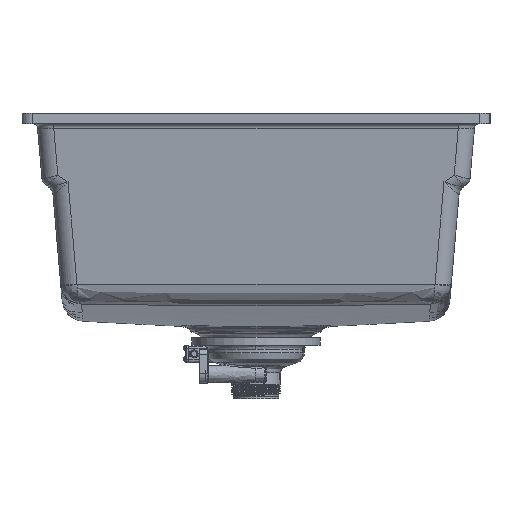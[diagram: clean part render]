
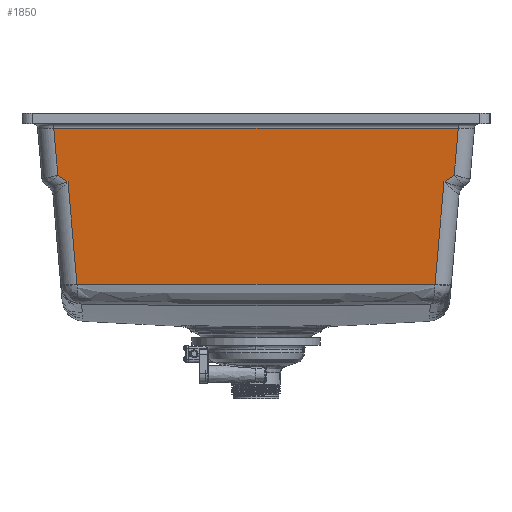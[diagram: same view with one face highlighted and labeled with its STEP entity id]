
A CAD part, left-side view. The second image highlights one B-rep face of the part: STEP entity #1850.
In plain terms, the highlighted planar face has unit normal (-0.996, 0, -0.087).
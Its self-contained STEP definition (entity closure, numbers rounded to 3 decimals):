
#1850=ADVANCED_FACE('',(#4476),#45034,.T.);
#4476=FACE_OUTER_BOUND('',#7194,.T.);
#7194=EDGE_LOOP('',(#16916,#16917,#16918,#16919,#16920,#16921,#16922,#16923,
#16924,#16925));
#16916=ORIENTED_EDGE('',*,*,#26790,.F.);
#16917=ORIENTED_EDGE('',*,*,#26753,.F.);
#16918=ORIENTED_EDGE('',*,*,#26775,.F.);
#16919=ORIENTED_EDGE('',*,*,#26800,.F.);
#16920=ORIENTED_EDGE('',*,*,#26801,.F.);
#16921=ORIENTED_EDGE('',*,*,#26802,.F.);
#16922=ORIENTED_EDGE('',*,*,#26776,.F.);
#16923=ORIENTED_EDGE('',*,*,#26758,.F.);
#16924=ORIENTED_EDGE('',*,*,#26792,.F.);
#16925=ORIENTED_EDGE('',*,*,#26631,.T.);
#26631=EDGE_CURVE('',#41331,#41330,#36115,.T.);
#26753=EDGE_CURVE('',#41376,#41347,#36169,.T.);
#26758=EDGE_CURVE('',#41337,#41366,#36172,.T.);
#26775=EDGE_CURVE('',#41380,#41376,#36178,.T.);
#26776=EDGE_CURVE('',#41366,#41395,#36179,.T.);
#26790=EDGE_CURVE('',#41347,#41330,#36188,.T.);
#26792=EDGE_CURVE('',#41331,#41337,#36189,.T.);
#26800=EDGE_CURVE('',#41379,#41380,#36193,.T.);
#26801=EDGE_CURVE('',#41385,#41379,#36194,.T.);
#26802=EDGE_CURVE('',#41395,#41385,#36195,.T.);
#36115=B_SPLINE_CURVE_WITH_KNOTS('',1,(#81781,#81782),.UNSPECIFIED.,.F.,
 .F.,(2,2),(-397.619,0.),.UNSPECIFIED.);
#36169=B_SPLINE_CURVE_WITH_KNOTS('',1,(#84363,#84364),.UNSPECIFIED.,.F.,
 .F.,(2,2),(0.,11.937),.UNSPECIFIED.);
#36172=B_SPLINE_CURVE_WITH_KNOTS('',1,(#84375,#84376),.UNSPECIFIED.,.F.,
 .F.,(2,2),(0.,11.937),.UNSPECIFIED.);
#36178=B_SPLINE_CURVE_WITH_KNOTS('',1,(#84420,#84421),.UNSPECIFIED.,.F.,
 .F.,(2,2),(0.,101.55),.UNSPECIFIED.);
#36179=B_SPLINE_CURVE_WITH_KNOTS('',1,(#84422,#84423),.UNSPECIFIED.,.F.,
 .F.,(2,2),(0.,101.55),.UNSPECIFIED.);
#36188=B_SPLINE_CURVE_WITH_KNOTS('',1,(#84521,#84522),.UNSPECIFIED.,.F.,
 .F.,(2,2),(0.,46.451),.UNSPECIFIED.);
#36189=B_SPLINE_CURVE_WITH_KNOTS('',1,(#84528,#84529),.UNSPECIFIED.,.F.,
 .F.,(2,2),(0.,46.451),.UNSPECIFIED.);
#36193=B_SPLINE_CURVE_WITH_KNOTS('',3,(#84552,#84553,#84554,#84555),
 .UNSPECIFIED.,.F.,.F.,(4,4),(-0.155,0.),.UNSPECIFIED.);
#36194=B_SPLINE_CURVE_WITH_KNOTS('',3,(#84556,#84557,#84558,#84559,#84560,
#84561),.UNSPECIFIED.,.F.,.F.,(4,2,4),(-351.914,-175.957,
0.),.UNSPECIFIED.);
#36195=B_SPLINE_CURVE_WITH_KNOTS('',3,(#84562,#84563,#84564,#84565),
 .UNSPECIFIED.,.F.,.F.,(4,4),(-0.155,0.),.UNSPECIFIED.);
#41330=VERTEX_POINT('',#81364);
#41331=VERTEX_POINT('',#81365);
#41337=VERTEX_POINT('',#81371);
#41347=VERTEX_POINT('',#81381);
#41366=VERTEX_POINT('',#81400);
#41376=VERTEX_POINT('',#81410);
#41379=VERTEX_POINT('',#81413);
#41380=VERTEX_POINT('',#81414);
#41385=VERTEX_POINT('',#81419);
#41395=VERTEX_POINT('',#81429);
#45034=PLANE('',#48580);
#48580=AXIS2_PLACEMENT_3D('',#79777,#53653,$);
#53653=DIRECTION('',(-0.996,0.,-0.087));
#79777=CARTESIAN_POINT('',(-349.798,-238.692,-45.374));
#81364=CARTESIAN_POINT('',(-364.749,198.81,125.518));
#81365=CARTESIAN_POINT('',(-364.749,-198.81,125.518));
#81371=CARTESIAN_POINT('',(-360.715,-194.776,79.418));
#81381=CARTESIAN_POINT('',(-360.715,194.776,79.418));
#81400=CARTESIAN_POINT('',(-360.147,-184.776,72.924));
#81410=CARTESIAN_POINT('',(-360.147,184.776,72.924));
#81413=CARTESIAN_POINT('',(-351.317,175.943,-28.011));
#81414=CARTESIAN_POINT('',(-351.33,175.959,-27.857));
#81419=CARTESIAN_POINT('',(-351.317,-175.943,-28.011));
#81429=CARTESIAN_POINT('',(-351.33,-175.959,-27.857));
#81781=CARTESIAN_POINT('',(-364.749,-198.81,125.518));
#81782=CARTESIAN_POINT('',(-364.749,198.81,125.518));
#84363=CARTESIAN_POINT('',(-360.147,184.776,72.924));
#84364=CARTESIAN_POINT('',(-360.715,194.776,79.418));
#84375=CARTESIAN_POINT('',(-360.715,-194.776,79.418));
#84376=CARTESIAN_POINT('',(-360.147,-184.776,72.924));
#84420=CARTESIAN_POINT('',(-351.33,175.959,-27.857));
#84421=CARTESIAN_POINT('',(-360.147,184.776,72.924));
#84422=CARTESIAN_POINT('',(-360.147,-184.776,72.924));
#84423=CARTESIAN_POINT('',(-351.33,-175.959,-27.857));
#84521=CARTESIAN_POINT('',(-360.715,194.776,79.418));
#84522=CARTESIAN_POINT('',(-364.749,198.81,125.518));
#84528=CARTESIAN_POINT('',(-364.749,-198.81,125.518));
#84529=CARTESIAN_POINT('',(-360.715,-194.776,79.418));
#84552=CARTESIAN_POINT('',(-351.317,175.943,-28.011));
#84553=CARTESIAN_POINT('',(-351.321,175.949,-27.96));
#84554=CARTESIAN_POINT('',(-351.326,175.955,-27.909));
#84555=CARTESIAN_POINT('',(-351.33,175.959,-27.857));
#84556=CARTESIAN_POINT('',(-351.317,-175.943,-28.011));
#84557=CARTESIAN_POINT('',(-351.22,-117.301,-29.113));
#84558=CARTESIAN_POINT('',(-351.167,-58.653,-29.721));
#84559=CARTESIAN_POINT('',(-351.167,58.653,-29.721));
#84560=CARTESIAN_POINT('',(-351.22,117.301,-29.113));
#84561=CARTESIAN_POINT('',(-351.317,175.943,-28.011));
#84562=CARTESIAN_POINT('',(-351.33,-175.959,-27.857));
#84563=CARTESIAN_POINT('',(-351.326,-175.955,-27.909));
#84564=CARTESIAN_POINT('',(-351.321,-175.949,-27.96));
#84565=CARTESIAN_POINT('',(-351.317,-175.943,-28.011));
